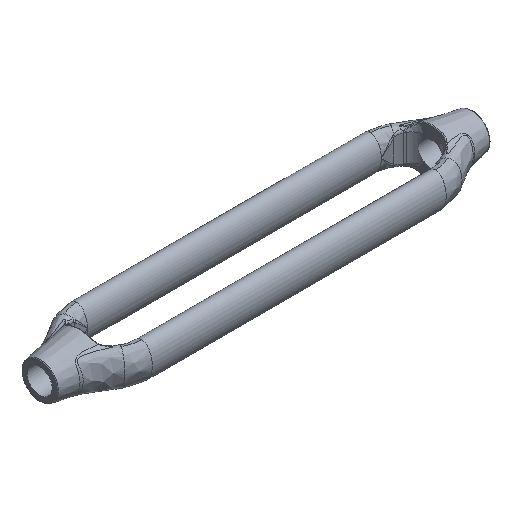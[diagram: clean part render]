
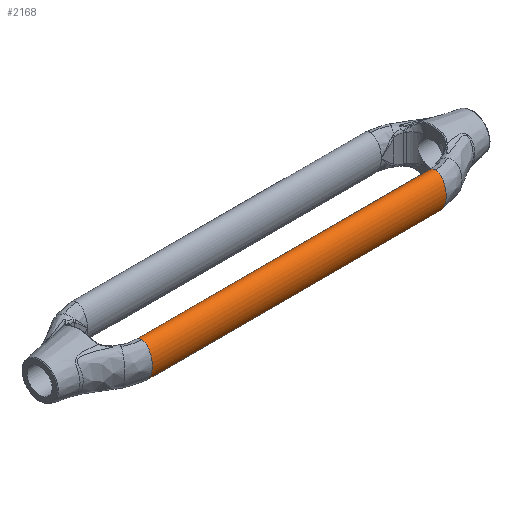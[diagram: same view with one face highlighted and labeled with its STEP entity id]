
A CAD part, isometric view. The second image highlights one B-rep face of the part: STEP entity #2168.
In plain terms, the highlighted free-form (B-spline) face has degree [1, 2] with [2, 9] control points.
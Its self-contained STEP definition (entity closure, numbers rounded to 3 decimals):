
#65=ELLIPSE('',#2368,11.95,7.5);
#66=ELLIPSE('',#2370,11.95,7.5);
#67=ELLIPSE('',#2378,11.95,7.5);
#68=ELLIPSE('',#2380,11.95,7.5);
#81=(
BOUNDED_SURFACE()
B_SPLINE_SURFACE(1,2,((#6441,#6442,#6443,#6444,#6445,#6446,#6447,#6448,
#6449),(#6450,#6451,#6452,#6453,#6454,#6455,#6456,#6457,#6458)),
 .UNSPECIFIED.,.F.,.T.,.F.)
B_SPLINE_SURFACE_WITH_KNOTS((2,2),(3,2,2,2,3),(-8.529,8.529),
(-3.142,-1.571,0.,1.571,3.142),
 .UNSPECIFIED.)
GEOMETRIC_REPRESENTATION_ITEM()
RATIONAL_B_SPLINE_SURFACE(((1.,0.707,1.,0.707,1.,
0.707,1.,0.707,1.),(1.,0.707,1.,0.707,
1.,0.707,1.,0.707,1.)))
REPRESENTATION_ITEM('')
SURFACE()
);
#375=LINE('',#6459,#409);
#409=VECTOR('',#2781,11.95);
#531=FACE_OUTER_BOUND('',#671,.T.);
#671=EDGE_LOOP('',(#1950,#1951,#1952,#1953,#1954,#1955));
#985=VERTEX_POINT('',#5994);
#989=VERTEX_POINT('',#6166);
#992=VERTEX_POINT('',#6235);
#996=VERTEX_POINT('',#6407);
#1299=EDGE_CURVE('',#985,#989,#65,.T.);
#1301=EDGE_CURVE('',#989,#985,#66,.T.);
#1316=EDGE_CURVE('',#996,#992,#67,.T.);
#1318=EDGE_CURVE('',#992,#996,#68,.T.);
#1320=EDGE_CURVE('',#996,#989,#375,.T.);
#1950=ORIENTED_EDGE('',*,*,#1316,.T.);
#1951=ORIENTED_EDGE('',*,*,#1318,.T.);
#1952=ORIENTED_EDGE('',*,*,#1320,.T.);
#1953=ORIENTED_EDGE('',*,*,#1299,.F.);
#1954=ORIENTED_EDGE('',*,*,#1301,.F.);
#1955=ORIENTED_EDGE('',*,*,#1320,.F.);
#2168=ADVANCED_FACE('',(#531),#81,.T.);
#2368=AXIS2_PLACEMENT_3D('',#6167,#2749,#2750);
#2370=AXIS2_PLACEMENT_3D('',#6196,#2753,#2754);
#2378=AXIS2_PLACEMENT_3D('',#6408,#2770,#2771);
#2380=AXIS2_PLACEMENT_3D('',#6437,#2774,#2775);
#2749=DIRECTION('center_axis',(-1.,0.,0.));
#2750=DIRECTION('ref_axis',(0.,0.,
-1.));
#2753=DIRECTION('center_axis',(-1.,0.,0.));
#2754=DIRECTION('ref_axis',(0.,0.,
-1.));
#2770=DIRECTION('center_axis',(-1.,0.,0.));
#2771=DIRECTION('ref_axis',(0.,0.,
-1.));
#2774=DIRECTION('center_axis',(-1.,0.,0.));
#2775=DIRECTION('ref_axis',(0.,0.,
-1.));
#2781=DIRECTION('',(-1.,0.,0.));
#5994=CARTESIAN_POINT('',(-101.926,-15.,0.));
#6166=CARTESIAN_POINT('',(-101.926,-22.5,11.95));
#6167=CARTESIAN_POINT('Origin',(-101.926,-22.5,0.));
#6196=CARTESIAN_POINT('Origin',(-101.926,-22.5,0.));
#6235=CARTESIAN_POINT('',(101.926,-15.,0.));
#6407=CARTESIAN_POINT('',(101.926,-22.5,11.95));
#6408=CARTESIAN_POINT('Origin',(101.926,-22.5,0.));
#6437=CARTESIAN_POINT('Origin',(101.926,-22.5,0.));
#6441=CARTESIAN_POINT('Ctrl Pts',(-101.926,-22.5,11.95));
#6442=CARTESIAN_POINT('Ctrl Pts',(-101.926,-15.,11.95));
#6443=CARTESIAN_POINT('Ctrl Pts',(-101.926,-15.,0.));
#6444=CARTESIAN_POINT('Ctrl Pts',(-101.926,-15.,-11.95));
#6445=CARTESIAN_POINT('Ctrl Pts',(-101.926,-22.5,-11.95));
#6446=CARTESIAN_POINT('Ctrl Pts',(-101.926,-30.,-11.95));
#6447=CARTESIAN_POINT('Ctrl Pts',(-101.926,-30.,0.));
#6448=CARTESIAN_POINT('Ctrl Pts',(-101.926,-30.,11.95));
#6449=CARTESIAN_POINT('Ctrl Pts',(-101.926,-22.5,11.95));
#6450=CARTESIAN_POINT('Ctrl Pts',(101.926,-22.5,11.95));
#6451=CARTESIAN_POINT('Ctrl Pts',(101.926,-15.,11.95));
#6452=CARTESIAN_POINT('Ctrl Pts',(101.926,-15.,0.));
#6453=CARTESIAN_POINT('Ctrl Pts',(101.926,-15.,-11.95));
#6454=CARTESIAN_POINT('Ctrl Pts',(101.926,-22.5,-11.95));
#6455=CARTESIAN_POINT('Ctrl Pts',(101.926,-30.,-11.95));
#6456=CARTESIAN_POINT('Ctrl Pts',(101.926,-30.,0.));
#6457=CARTESIAN_POINT('Ctrl Pts',(101.926,-30.,11.95));
#6458=CARTESIAN_POINT('Ctrl Pts',(101.926,-22.5,11.95));
#6459=CARTESIAN_POINT('',(0.,-22.5,11.95));
